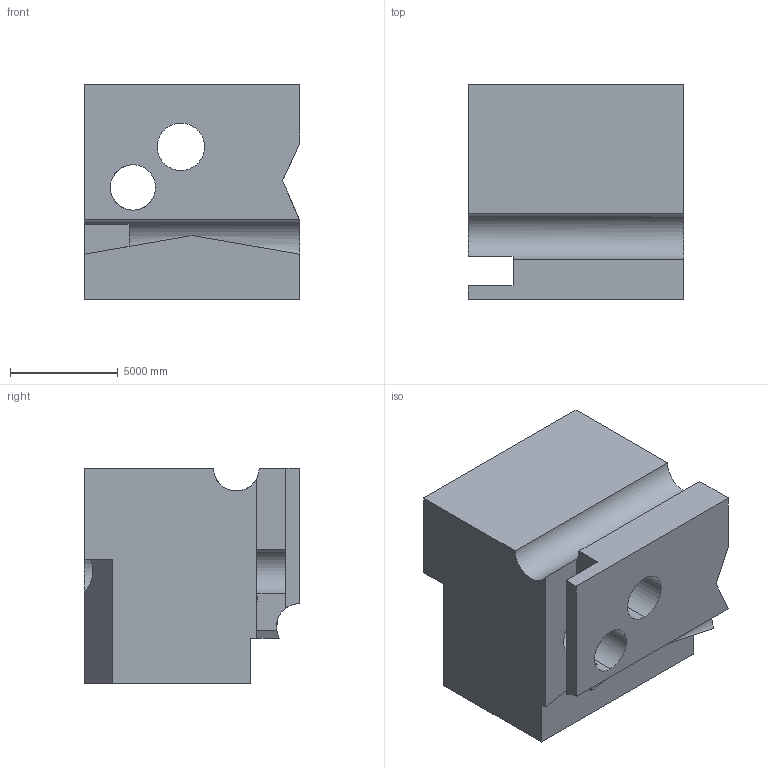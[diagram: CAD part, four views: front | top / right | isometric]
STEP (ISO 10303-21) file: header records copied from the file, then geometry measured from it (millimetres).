
FILE_DESCRIPTION (( 'STEP AP203' ), '1' );
FILE_NAME ('989.STEP', '2022-08-04T16:22:59', ( 'user' ), ( '' ), 'SwSTEP 2.0', 'SolidWorks 2021', '' );
FILE_SCHEMA (( 'CONFIG_CONTROL_DESIGN' ));
Length unit declared in the file: centimetre
Products named in the file (1): 989
Bounding box: 10000 x 10000 x 10000 mm (x, y, z)
Volume: 771840891981.3 mm3; surface area: 767663855.8 mm2
Topology: 1 solids, 1 shells, 37 faces, 115 edges, 76 vertices
Faces by surface type: plane 24, cylinder 13
Entity records: 1607 total; most frequent: CARTESIAN_POINT 509, ORIENTED_EDGE 230, DIRECTION 201, EDGE_CURVE 115, VERTEX_POINT 76, VECTOR 71, LINE 71, AXIS2_PLACEMENT_3D 65
